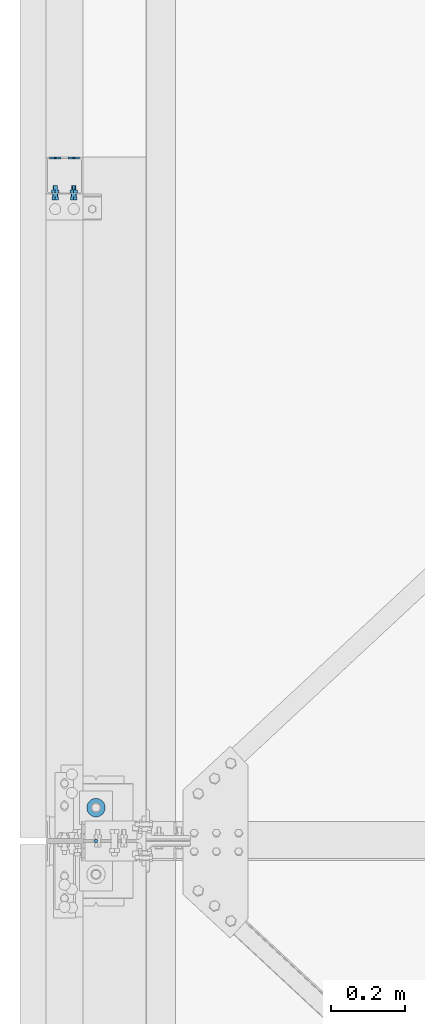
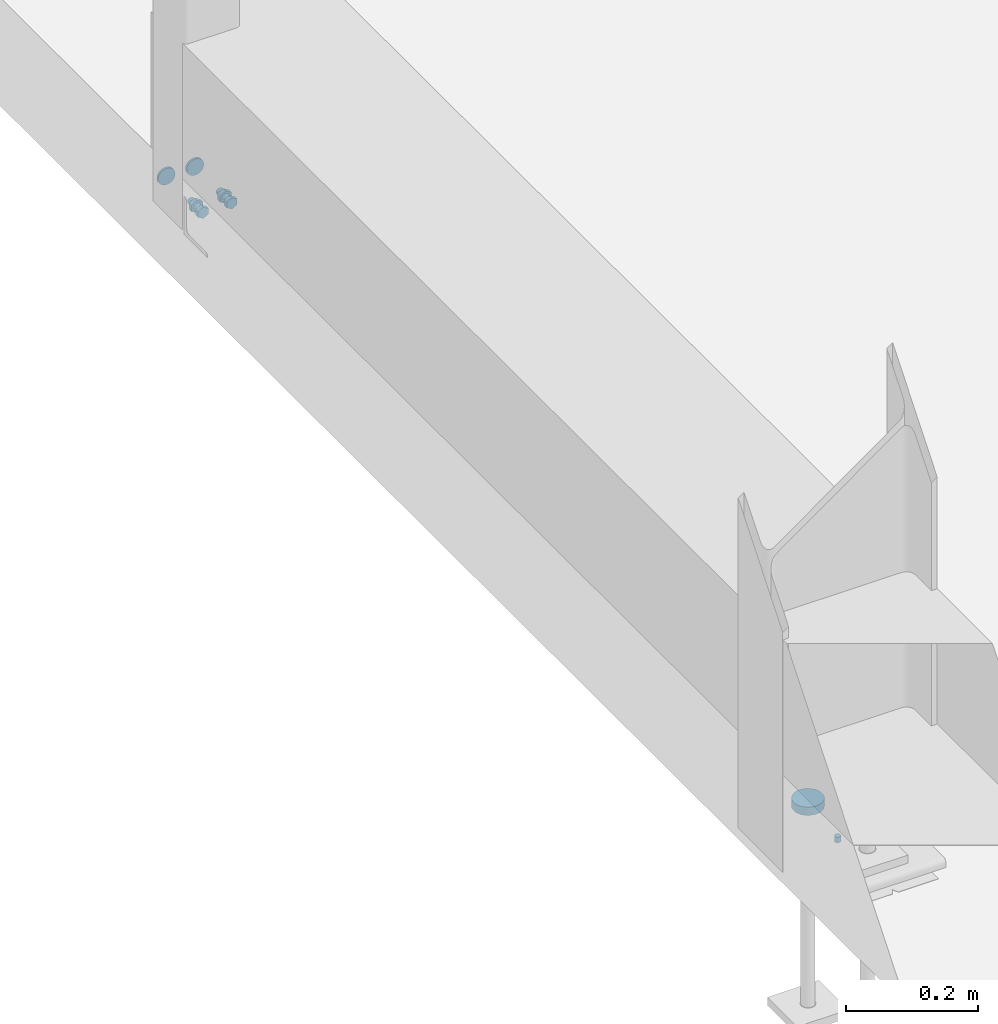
# One storey, part 239 of 362: 4 mechanical fasteners.
"""IFC2X3 building model written with IfcOpenShell, lengths in millimetres."""

from ifc_helpers import new_model, si_unit, frame, origin_with_axes, origin_2d_with_axis, place, context, subcontext, project, spatial, polyline, circle, outline, extrude, source, transform, mapped, material, type_object, element, save


model = new_model("IFC2X3")

# Units and contexts
model_context = context("Model", 3, precision=1e-05, world=origin_with_axes())
body_context = subcontext(model_context, "Body", "Model", "MODEL_VIEW")
ifc_project = project(units=[si_unit("LENGTHUNIT", "METRE", prefix="MILLI"), si_unit("AREAUNIT", "SQUARE_METRE"), si_unit("VOLUMEUNIT", "CUBIC_METRE"), si_unit("MASSUNIT", "GRAM", prefix="KILO"), si_unit("TIMEUNIT", "SECOND"), si_unit("PLANEANGLEUNIT", "RADIAN"), si_unit("SOLIDANGLEUNIT", "STERADIAN"), si_unit("THERMODYNAMICTEMPERATUREUNIT", "DEGREE_CELSIUS"), si_unit("LUMINOUSINTENSITYUNIT", "LUMEN")], contexts=[model_context])

# Site, building, storey
site_placement = place(None, origin_with_axes())
site = spatial("IfcSite", under=ifc_project, at=site_placement, Name="Undefined", CompositionType="ELEMENT")
building_placement = place(site_placement, origin_with_axes())
building = spatial("IfcBuilding", under=site, at=building_placement, Name="Undefined", CompositionType="ELEMENT")
storey_placement = place(building_placement, origin_with_axes())
storey = spatial("IfcBuildingStorey", under=building, at=storey_placement, Name="Undefined", CompositionType="ELEMENT", Elevation=0.0)

# Mechanical fasteners
ifc_material_1 = material(Name="6.8")
mechanical_fastener_type = type_object("IfcMechanicalFastenerType", Name="Bolt assembly")
shared_shape_1 = source(origin_with_axes(), body_context, "Body", "SweptSolid", [
    extrude(circle(Radius=15.0, at=origin_2d_with_axis()), frame((0.0, -3.99999923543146, 0.0), z_axis=(0.0, 1.0, 0.0), x_axis=(1.0, 0.0, 0.0)), (0.0, 0.0, 1.0), 4.1),
])
mechanical_fastener_1_placement = place(storey_placement, frame((-130.000002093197, 13245.0066102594, -59.9999998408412), z_axis=(1.0, 0.0, 0.0), x_axis=(0.0, 0.0, -1.0)))
element("IfcMechanicalFastener", 1, at=mechanical_fastener_1_placement, inside=storey, type_object=mechanical_fastener_type, material=ifc_material_1, Name="Bolt assembly", NominalDiameter=30.0, NominalLength=4.0, context=body_context, shape_type="MappedRepresentation", body=[
    mapped(shared_shape_1, transform((0.0, 0.0, 25.0))),
    mapped(shared_shape_1, transform((0.0, 0.0, -25.0))),
])
ifc_material_2 = material(Name="8.8-SB-ZINGUE")
shared_shape_2 = source(origin_with_axes(), body_context, "Body", "SweptSolid", [
    extrude(circle(Radius=7.0, at=origin_2d_with_axis()), frame((0.0, -0.100011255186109, 0.0), z_axis=(0.0, 1.0, 0.0), x_axis=(1.0, 0.0, 0.0)), (0.0, 0.0, 1.0), 4.1),
    extrude(circle(Radius=7.0, at=origin_2d_with_axis()), frame((0.0, -6.9, 0.0), z_axis=(0.0, 1.0, 0.0), x_axis=(1.0, 0.0, 0.0)), (0.0, 0.0, 1.0), 7.0),
    extrude(outline(polyline([(10.39230484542, 0.0), (5.19615242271, 9.00000000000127), (-5.19615242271, 9.00000000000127), (-10.39230484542, 0.0), (-5.19615242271, -9.00000000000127), (5.19615242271, -9.00000000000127), (10.39230484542, 0.0)])), frame((0.0, -14.92, 0.0), z_axis=(0.0, 1.0, 0.0), x_axis=(1.0, 0.0, 0.0)), (0.0, 0.0, 1.0), 7.92),
    extrude(circle(Radius=6.0, at=origin_2d_with_axis()), frame((0.0, -7.0, 0.0), z_axis=(0.0, 1.0, 0.0), x_axis=(1.0, 0.0, 0.0)), (0.0, 0.0, 1.0), 30.0),
    extrude(outline(polyline([(11.5008173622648, 0.0), (5.7504086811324, 9.96000000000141), (-5.7504086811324, 9.96000000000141), (-11.5008173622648, 0.0), (-5.7504086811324, -9.96000000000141), (5.7504086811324, -9.96000000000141), (11.5008173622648, 0.0)])), frame((0.0, 4.00000005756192, 0.0), z_axis=(0.0, 1.0, 0.0), x_axis=(1.0, 0.0, 0.0)), (0.0, 0.0, 1.0), 7.92),
])
mechanical_fastener_2_placement = place(storey_placement, frame((-130.000000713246, 13145.0066102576, -59.9999998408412), z_axis=(1.0, 0.0, 0.0), x_axis=(0.0, 0.0, -1.0)))
element("IfcMechanicalFastener", 2, at=mechanical_fastener_2_placement, inside=storey, type_object=mechanical_fastener_type, material=ifc_material_2, Name="Bolt assembly", NominalDiameter=12.0, NominalLength=30.0, context=body_context, shape_type="MappedRepresentation", body=[
    mapped(shared_shape_2, transform((0.0, 0.0, 25.0))),
    mapped(shared_shape_2, transform((0.0, 0.0, -25.0))),
])
shared_shape_3 = source(origin_with_axes(), body_context, "Body", "SweptSolid", [
    extrude(circle(Radius=25.0, at=origin_2d_with_axis()), frame((0.0, -14.999999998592, 0.0), z_axis=(0.0, 1.0, 0.0), x_axis=(1.0, 0.0, 0.0)), (0.0, 0.0, 1.0), 15.1),
])
mechanical_fastener_3_placement = place(storey_placement, frame((-45.0, 11490.0, -200.0), z_axis=(1.0, 0.0, 0.0), x_axis=(0.0, -1.0, 0.0)))
element("IfcMechanicalFastener", 3, at=mechanical_fastener_3_placement, inside=storey, type_object=mechanical_fastener_type, material=ifc_material_1, Name="Bolt assembly", NominalDiameter=30.0, NominalLength=15.0, context=body_context, shape_type="MappedRepresentation", body=[
    mapped(shared_shape_3, transform((0.0, 0.0, 0.0))),
])
shared_shape_4 = source(origin_with_axes(), body_context, "Body", "SweptSolid", [
    extrude(circle(Radius=5.0, at=origin_2d_with_axis()), frame((0.0, 0.0, 0.0), z_axis=(0.0, 1.0, 0.0), x_axis=(1.0, 0.0, 0.0)), (0.0, 0.0, 1.0), 10.1),
])
mechanical_fastener_4_placement = place(storey_placement, frame((-45.0, 11400.0000000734, -200.0), z_axis=(0.0, 1.0, 0.0), x_axis=(1.0, 0.0, 0.0)))
element("IfcMechanicalFastener", 4, at=mechanical_fastener_4_placement, inside=storey, type_object=mechanical_fastener_type, material=ifc_material_1, Name="Bolt assembly", NominalDiameter=8.0, NominalLength=10.0, context=body_context, shape_type="MappedRepresentation", body=[
    mapped(shared_shape_4, transform((0.0, 0.0, 0.0))),
])

save(model, "model.ifc")
